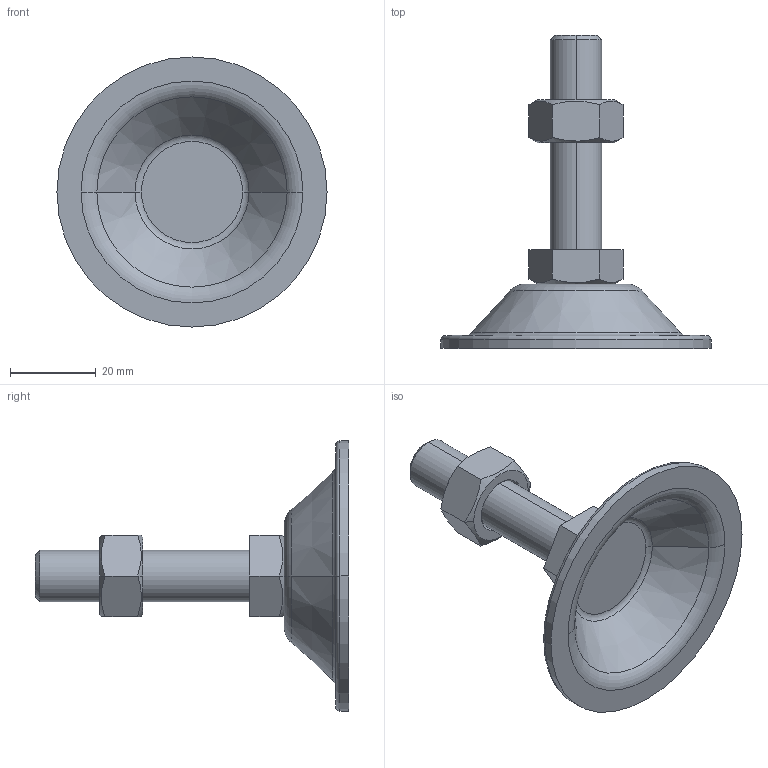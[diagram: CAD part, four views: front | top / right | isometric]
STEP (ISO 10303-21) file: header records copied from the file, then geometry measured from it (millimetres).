
FILE_DESCRIPTION (( 'STEP AP214' ), '1' );
FILE_NAME ('BL63-M12-50.step', '2021-01-06T05:38:32', ( '' ), ( '' ), 'SwSTEP 2.0', 'SolidWorks 2019', '' );
FILE_SCHEMA (( 'AUTOMOTIVE_DESIGN' ));
Length unit declared in the file: millimetre
Products named in the file (1): BL63-M12-50
Bounding box: 63 x 73 x 63 mm (x, y, z)
Volume: 21118 mm3; surface area: 12244.2 mm2
Topology: 3 solids, 3 shells, 53 faces, 110 edges, 66 vertices
Faces by surface type: plane 21, cone 16, torus 10, cylinder 6
Entity records: 1618 total; most frequent: CARTESIAN_POINT 428, DIRECTION 252, ORIENTED_EDGE 220, EDGE_CURVE 110, AXIS2_PLACEMENT_3D 106, VERTEX_POINT 66, EDGE_LOOP 58, FACE_OUTER_BOUND 53
